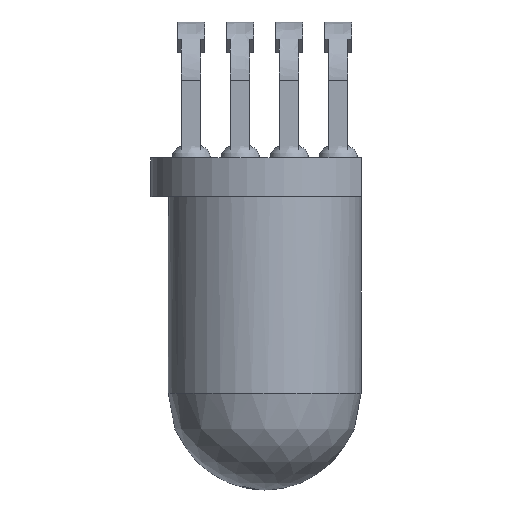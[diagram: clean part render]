
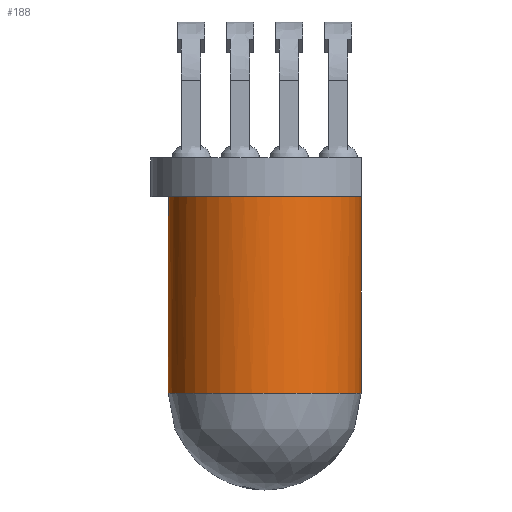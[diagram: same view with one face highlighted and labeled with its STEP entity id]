
A CAD part, top view. The second image highlights one B-rep face of the part: STEP entity #188.
In plain terms, the highlighted cylindrical face has radius 2.5 mm (diameter 5 mm), a full revolution.
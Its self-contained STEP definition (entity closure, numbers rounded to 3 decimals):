
#20=CYLINDRICAL_SURFACE('',#1388,2.5);
#35=(
BOUNDED_CURVE()
B_SPLINE_CURVE(2,(#4865,#4866,#4867,#4868,#4869,#4870,#4871),
 .UNSPECIFIED.,.F.,.F.)
B_SPLINE_CURVE_WITH_KNOTS((3,2,2,3),(-15.708,-11.781,
-7.854,-3.927),.UNSPECIFIED.)
CURVE()
GEOMETRIC_REPRESENTATION_ITEM()
RATIONAL_B_SPLINE_CURVE((1.,0.707,1.,0.707,1.,0.707,
1.))
REPRESENTATION_ITEM('')
);
#36=(
BOUNDED_CURVE()
B_SPLINE_CURVE(1,(#4872,#4873),.UNSPECIFIED.,.F.,.F.)
B_SPLINE_CURVE_WITH_KNOTS((2,2),(1.,6.1),.UNSPECIFIED.)
CURVE()
GEOMETRIC_REPRESENTATION_ITEM()
RATIONAL_B_SPLINE_CURVE((1.,1.))
REPRESENTATION_ITEM('')
);
#41=(
BOUNDED_CURVE()
B_SPLINE_CURVE(2,(#4898,#4899,#4900),.UNSPECIFIED.,.F.,.F.)
B_SPLINE_CURVE_WITH_KNOTS((3,3),(-3.927,0.),.UNSPECIFIED.)
CURVE()
GEOMETRIC_REPRESENTATION_ITEM()
RATIONAL_B_SPLINE_CURVE((1.,0.707,1.))
REPRESENTATION_ITEM('')
);
#42=(
BOUNDED_CURVE()
B_SPLINE_CURVE(2,(#4901,#4902,#4903,#4904,#4905,#4906,#4907,#4908,#4909,
#4910,#4911),.UNSPECIFIED.,.T.,.F.)
B_SPLINE_CURVE_WITH_KNOTS((3,2,2,2,2,3),(-15.708,-12.763,
-9.817,-6.872,-3.927,0.),.UNSPECIFIED.)
CURVE()
GEOMETRIC_REPRESENTATION_ITEM()
RATIONAL_B_SPLINE_CURVE((1.,0.831,1.,0.831,1.,0.831,
1.,0.831,1.,0.707,1.))
REPRESENTATION_ITEM('')
);
#188=ADVANCED_FACE('',(#268),#20,.T.);
#268=FACE_OUTER_BOUND('',#352,.T.);
#352=EDGE_LOOP('',(#723,#724,#725,#726,#727));
#723=ORIENTED_EDGE('',*,*,#926,.F.);
#724=ORIENTED_EDGE('',*,*,#934,.F.);
#725=ORIENTED_EDGE('',*,*,#925,.F.);
#726=ORIENTED_EDGE('',*,*,#926,.T.);
#727=ORIENTED_EDGE('',*,*,#935,.T.);
#925=EDGE_CURVE('',#1240,#1245,#35,.T.);
#926=EDGE_CURVE('',#1240,#1239,#36,.T.);
#934=EDGE_CURVE('',#1245,#1240,#41,.T.);
#935=EDGE_CURVE('',#1239,#1239,#42,.T.);
#1239=VERTEX_POINT('',#4831);
#1240=VERTEX_POINT('',#4832);
#1245=VERTEX_POINT('',#4837);
#1388=AXIS2_PLACEMENT_3D('',#4775,#1442,$);
#1442=DIRECTION('',(0.,-1.,0.));
#4775=CARTESIAN_POINT('',(-42.,-8.5,3.));
#4831=CARTESIAN_POINT('',(-42.,-8.1,0.5));
#4832=CARTESIAN_POINT('',(-42.,-3.,0.5));
#4837=CARTESIAN_POINT('',(-39.5,-3.,3.));
#4865=CARTESIAN_POINT('',(-42.,-3.,0.5));
#4866=CARTESIAN_POINT('',(-44.5,-3.,0.5));
#4867=CARTESIAN_POINT('',(-44.5,-3.,3.));
#4868=CARTESIAN_POINT('',(-44.5,-3.,5.5));
#4869=CARTESIAN_POINT('',(-42.,-3.,5.5));
#4870=CARTESIAN_POINT('',(-39.5,-3.,5.5));
#4871=CARTESIAN_POINT('',(-39.5,-3.,3.));
#4872=CARTESIAN_POINT('',(-42.,-3.,0.5));
#4873=CARTESIAN_POINT('',(-42.,-8.1,0.5));
#4898=CARTESIAN_POINT('',(-39.5,-3.,3.));
#4899=CARTESIAN_POINT('',(-39.5,-3.,0.5));
#4900=CARTESIAN_POINT('',(-42.,-3.,0.5));
#4901=CARTESIAN_POINT('',(-42.,-8.1,0.5));
#4902=CARTESIAN_POINT('',(-43.67,-8.1,0.5));
#4903=CARTESIAN_POINT('',(-44.31,-8.1,2.043));
#4904=CARTESIAN_POINT('',(-44.949,-8.1,3.587));
#4905=CARTESIAN_POINT('',(-43.768,-8.1,4.768));
#4906=CARTESIAN_POINT('',(-42.587,-8.1,5.949));
#4907=CARTESIAN_POINT('',(-41.043,-8.1,5.31));
#4908=CARTESIAN_POINT('',(-39.5,-8.1,4.67));
#4909=CARTESIAN_POINT('',(-39.5,-8.1,3.));
#4910=CARTESIAN_POINT('',(-39.5,-8.1,0.5));
#4911=CARTESIAN_POINT('',(-42.,-8.1,0.5));
